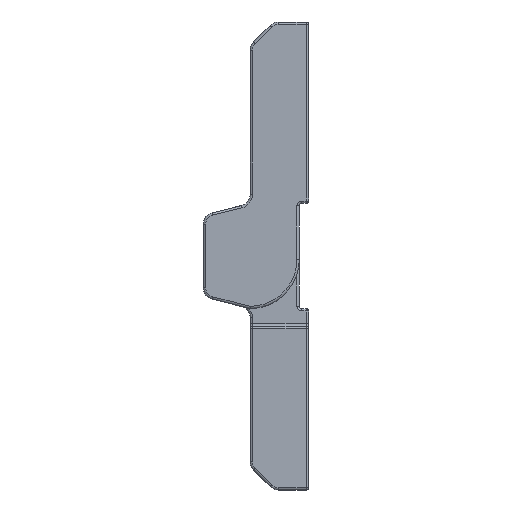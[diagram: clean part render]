
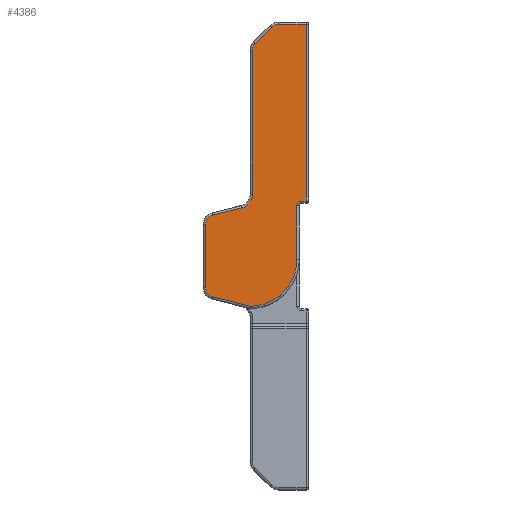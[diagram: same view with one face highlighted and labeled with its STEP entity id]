
A CAD part, left-side view. The second image highlights one B-rep face of the part: STEP entity #4386.
In plain terms, the highlighted planar face has unit normal (-1, 0, 0) as drawn and (1, 0, 0) by its records, which use the part's own axes.
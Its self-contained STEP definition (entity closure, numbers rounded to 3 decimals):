
#892 = CARTESIAN_POINT ( 'NONE',  ( 20., 0.3, -28.193 ) ) ;
#893 = LINE ( 'NONE', #892, #933 ) ;
#895 = LINE ( 'NONE', #940, #939 ) ;
#924 = CARTESIAN_POINT ( 'NONE',  ( 20., -0.5, -17.586 ) ) ;
#926 = AXIS2_PLACEMENT_3D ( 'NONE', #980, #979, #978 ) ;
#927 = CARTESIAN_POINT ( 'NONE',  ( 20., 4.3, 2.719 ) ) ;
#932 = DIRECTION ( 'NONE',  ( 0., 0., 1. ) ) ;
#933 = VECTOR ( 'NONE', #932, 1000. ) ;
#935 = CIRCLE ( 'NONE', #926, 4. ) ;
#936 = CIRCLE ( 'NONE', #945, 0.8 ) ;
#937 = DIRECTION ( 'NONE',  ( 1., 0., 0. ) ) ;
#938 = DIRECTION ( 'NONE',  ( 0., 0., -1. ) ) ;
#939 = VECTOR ( 'NONE', #938, 1000. ) ;
#940 = CARTESIAN_POINT ( 'NONE',  ( 20., -3.5, -4.5 ) ) ;
#942 = CARTESIAN_POINT ( 'NONE',  ( 20., 0.3, -5.281 ) ) ;
#943 = CARTESIAN_POINT ( 'NONE',  ( 20., -4.3, -4.7 ) ) ;
#945 = AXIS2_PLACEMENT_3D ( 'NONE', #924, #937, #985 ) ;
#972 = DIRECTION ( 'NONE',  ( 0., 1., 0. ) ) ;
#973 = VECTOR ( 'NONE', #972, 1000. ) ;
#974 = CARTESIAN_POINT ( 'NONE',  ( 20., -1.914, -19.8 ) ) ;
#975 = LINE ( 'NONE', #974, #973 ) ;
#977 = CARTESIAN_POINT ( 'NONE',  ( 20., -3.5, 0.3 ) ) ;
#978 = DIRECTION ( 'NONE',  ( 0., 0., -1. ) ) ;
#979 = DIRECTION ( 'NONE',  ( 1., 0., 0. ) ) ;
#980 = CARTESIAN_POINT ( 'NONE',  ( 20., 0.5, 0.3 ) ) ;
#985 = DIRECTION ( 'NONE',  ( 0., 0., -1. ) ) ;
#1928 = CARTESIAN_POINT ( 'NONE',  ( 20., 0.476, 4.3 ) ) ;
#2598 = DIRECTION ( 'NONE',  ( 1., 0., 0. ) ) ;
#2639 = DIRECTION ( 'NONE',  ( 0., 0., -1. ) ) ;
#3296 = CARTESIAN_POINT ( 'NONE',  ( 20., 3.5, 2.719 ) ) ;
#3302 = AXIS2_PLACEMENT_3D ( 'NONE', #3296, #2598, #2639 ) ;
#3303 = CIRCLE ( 'NONE', #3302, 0.8 ) ;
#3316 = CARTESIAN_POINT ( 'NONE',  ( 20., -3.9, -4.7 ) ) ;
#3329 = CARTESIAN_POINT ( 'NONE',  ( 20., 1.209, -4.117 ) ) ;
#3330 = VECTOR ( 'NONE', #3389, 1000. ) ;
#3331 = DIRECTION ( 'NONE',  ( 0., -0.97, 0.243 ) ) ;
#3332 = VECTOR ( 'NONE', #3331, 1000. ) ;
#3333 = AXIS2_PLACEMENT_3D ( 'NONE', #3380, #3376, #3375 ) ;
#3334 = DIRECTION ( 'NONE',  ( 0., 0., -1. ) ) ;
#3335 = CIRCLE ( 'NONE', #3333, 0.4 ) ;
#3336 = CARTESIAN_POINT ( 'NONE',  ( 20., 3.694, -3.495 ) ) ;
#3337 = AXIS2_PLACEMENT_3D ( 'NONE', #3355, #3341, #3334 ) ;
#3338 = CARTESIAN_POINT ( 'NONE',  ( 20., 0.451, 4.306 ) ) ;
#3339 = LINE ( 'NONE', #3338, #3332 ) ;
#3340 = LINE ( 'NONE', #3336, #3330 ) ;
#3341 = DIRECTION ( 'NONE',  ( 1., 0., 0. ) ) ;
#3342 = FACE_OUTER_BOUND ( 'NONE', #4573, .T. ) ;
#3343 = DIRECTION ( 'NONE',  ( 0., 0., 1. ) ) ;
#3344 = VECTOR ( 'NONE', #3343, 1000. ) ;
#3345 = CARTESIAN_POINT ( 'NONE',  ( 20., 4.3, -28.193 ) ) ;
#3346 = CARTESIAN_POINT ( 'NONE',  ( 20., 0.066, -18.151 ) ) ;
#3348 = DIRECTION ( 'NONE',  ( 0., 0., -1. ) ) ;
#3349 = DIRECTION ( 'NONE',  ( 1., 0., 0. ) ) ;
#3350 = CARTESIAN_POINT ( 'NONE',  ( 20., 3.5, -2.719 ) ) ;
#3351 = AXIS2_PLACEMENT_3D ( 'NONE', #3350, #3349, #3348 ) ;
#3352 = PLANE ( 'NONE',  #3337 ) ;
#3353 = LINE ( 'NONE', #3345, #3344 ) ;
#3354 = CIRCLE ( 'NONE', #3351, 0.8 ) ;
#3355 = CARTESIAN_POINT ( 'NONE',  ( 20., 0., -28.193 ) ) ;
#3359 = CIRCLE ( 'NONE', #3411, 1.2 ) ;
#3361 = DIRECTION ( 'NONE',  ( 0., 0., -1. ) ) ;
#3362 = DIRECTION ( 'NONE',  ( 1., 0., 0. ) ) ;
#3363 = CARTESIAN_POINT ( 'NONE',  ( 20., -1.914, -19. ) ) ;
#3364 = AXIS2_PLACEMENT_3D ( 'NONE', #3363, #3362, #3361 ) ;
#3366 = CARTESIAN_POINT ( 'NONE',  ( 20., -1.914, -19.8 ) ) ;
#3371 = DIRECTION ( 'NONE',  ( 0., 0.707, 0.707 ) ) ;
#3372 = VECTOR ( 'NONE', #3371, 1000. ) ;
#3373 = CIRCLE ( 'NONE', #3364, 0.8 ) ;
#3374 = CARTESIAN_POINT ( 'NONE',  ( 20., 3.694, 3.495 ) ) ;
#3375 = DIRECTION ( 'NONE',  ( 0., 0., -1. ) ) ;
#3376 = DIRECTION ( 'NONE',  ( 1., 0., 0. ) ) ;
#3377 = CARTESIAN_POINT ( 'NONE',  ( 20., -4.988, -23.205 ) ) ;
#3378 = LINE ( 'NONE', #3377, #3372 ) ;
#3380 = CARTESIAN_POINT ( 'NONE',  ( 20., -3.9, -4.3 ) ) ;
#3383 = CARTESIAN_POINT ( 'NONE',  ( 20., 3.694, -3.495 ) ) ;
#3384 = CARTESIAN_POINT ( 'NONE',  ( 20., 4.3, -2.719 ) ) ;
#3386 = CARTESIAN_POINT ( 'NONE',  ( 20., -3.5, -4.3 ) ) ;
#3389 = DIRECTION ( 'NONE',  ( 0., 0.97, 0.243 ) ) ;
#3408 = DIRECTION ( 'NONE',  ( 0., 0., -1. ) ) ;
#3409 = DIRECTION ( 'NONE',  ( -1., 0., 0. ) ) ;
#3410 = CARTESIAN_POINT ( 'NONE',  ( 20., 1.5, -5.281 ) ) ;
#3411 = AXIS2_PLACEMENT_3D ( 'NONE', #3410, #3409, #3408 ) ;
#3596 = DIRECTION ( 'NONE',  ( 0., -1., 0. ) ) ;
#3597 = VECTOR ( 'NONE', #3596, 1000. ) ;
#3598 = LINE ( 'NONE', #3641, #3640 ) ;
#3601 = CARTESIAN_POINT ( 'NONE',  ( 20., -4.5, -4.7 ) ) ;
#3602 = LINE ( 'NONE', #3601, #3597 ) ;
#3604 = CARTESIAN_POINT ( 'NONE',  ( 20., -4.3, -19.8 ) ) ;
#3608 = CARTESIAN_POINT ( 'NONE',  ( 20., 0.3, -17.586 ) ) ;
#3615 = CARTESIAN_POINT ( 'NONE',  ( 20., -1.349, -19.566 ) ) ;
#3639 = DIRECTION ( 'NONE',  ( 0., 0., -1. ) ) ;
#3640 = VECTOR ( 'NONE', #3639, 1000. ) ;
#3641 = CARTESIAN_POINT ( 'NONE',  ( 20., -4.3, -20. ) ) ;
#4039 = ORIENTED_EDGE ( 'NONE', *, *, #4648, .F. ) ;
#4130 = VERTEX_POINT ( 'NONE', #3316 ) ;
#4158 = EDGE_CURVE ( 'NONE', #5600, #4651, #3303, .T. ) ;
#4159 = ORIENTED_EDGE ( 'NONE', *, *, #5593, .T. ) ;
#4250 = ORIENTED_EDGE ( 'NONE', *, *, #4158, .T. ) ;
#4308 = EDGE_CURVE ( 'NONE', #4653, #4647, #3354, .T. ) ;
#4315 = ORIENTED_EDGE ( 'NONE', *, *, #5601, .T. ) ;
#4317 = EDGE_CURVE ( 'NONE', #4647, #5600, #3353, .T. ) ;
#4361 = VERTEX_POINT ( 'NONE', #3346 ) ;
#4363 = ORIENTED_EDGE ( 'NONE', *, *, #4317, .T. ) ;
#4386 = ADVANCED_FACE ( 'NONE', ( #3342 ), #3352, .T. ) ;
#4571 = ORIENTED_EDGE ( 'NONE', *, *, #4746, .T. ) ;
#4573 = EDGE_LOOP ( 'NONE', ( #4039, #4571, #5602, #4745, #4649, #4652, #4657, #4643, #4620, #4656, #4644, #4363, #4250, #5595, #4315, #4159 ) ) ;
#4583 = EDGE_CURVE ( 'NONE', #4651, #6186, #3339, .T. ) ;
#4616 = EDGE_CURVE ( 'NONE', #4617, #4653, #3340, .T. ) ;
#4617 = VERTEX_POINT ( 'NONE', #3329 ) ;
#4620 = ORIENTED_EDGE ( 'NONE', *, *, #4665, .T. ) ;
#4643 = ORIENTED_EDGE ( 'NONE', *, *, #5596, .T. ) ;
#4644 = ORIENTED_EDGE ( 'NONE', *, *, #4308, .T. ) ;
#4647 = VERTEX_POINT ( 'NONE', #3384 ) ;
#4648 = EDGE_CURVE ( 'NONE', #4130, #4663, #3335, .T. ) ;
#4649 = ORIENTED_EDGE ( 'NONE', *, *, #4655, .T. ) ;
#4650 = EDGE_CURVE ( 'NONE', #4742, #4361, #3378, .T. ) ;
#4651 = VERTEX_POINT ( 'NONE', #3374 ) ;
#4652 = ORIENTED_EDGE ( 'NONE', *, *, #4650, .T. ) ;
#4653 = VERTEX_POINT ( 'NONE', #3383 ) ;
#4655 = EDGE_CURVE ( 'NONE', #4661, #4742, #3373, .T. ) ;
#4656 = ORIENTED_EDGE ( 'NONE', *, *, #4616, .T. ) ;
#4657 = ORIENTED_EDGE ( 'NONE', *, *, #5598, .T. ) ;
#4661 = VERTEX_POINT ( 'NONE', #3366 ) ;
#4663 = VERTEX_POINT ( 'NONE', #3386 ) ;
#4665 = EDGE_CURVE ( 'NONE', #5599, #4617, #3359, .T. ) ;
#4741 = VERTEX_POINT ( 'NONE', #3608 ) ;
#4742 = VERTEX_POINT ( 'NONE', #3615 ) ;
#4745 = ORIENTED_EDGE ( 'NONE', *, *, #5603, .T. ) ;
#4746 = EDGE_CURVE ( 'NONE', #4130, #5592, #3602, .T. ) ;
#4749 = EDGE_CURVE ( 'NONE', #5592, #4750, #3598, .T. ) ;
#4750 = VERTEX_POINT ( 'NONE', #3604 ) ;
#5592 = VERTEX_POINT ( 'NONE', #943 ) ;
#5593 = EDGE_CURVE ( 'NONE', #5604, #4663, #895, .T. ) ;
#5595 = ORIENTED_EDGE ( 'NONE', *, *, #4583, .T. ) ;
#5596 = EDGE_CURVE ( 'NONE', #4741, #5599, #893, .T. ) ;
#5598 = EDGE_CURVE ( 'NONE', #4361, #4741, #936, .T. ) ;
#5599 = VERTEX_POINT ( 'NONE', #942 ) ;
#5600 = VERTEX_POINT ( 'NONE', #927 ) ;
#5601 = EDGE_CURVE ( 'NONE', #6186, #5604, #935, .T. ) ;
#5602 = ORIENTED_EDGE ( 'NONE', *, *, #4749, .T. ) ;
#5603 = EDGE_CURVE ( 'NONE', #4750, #4661, #975, .T. ) ;
#5604 = VERTEX_POINT ( 'NONE', #977 ) ;
#6186 = VERTEX_POINT ( 'NONE', #1928 ) ;
